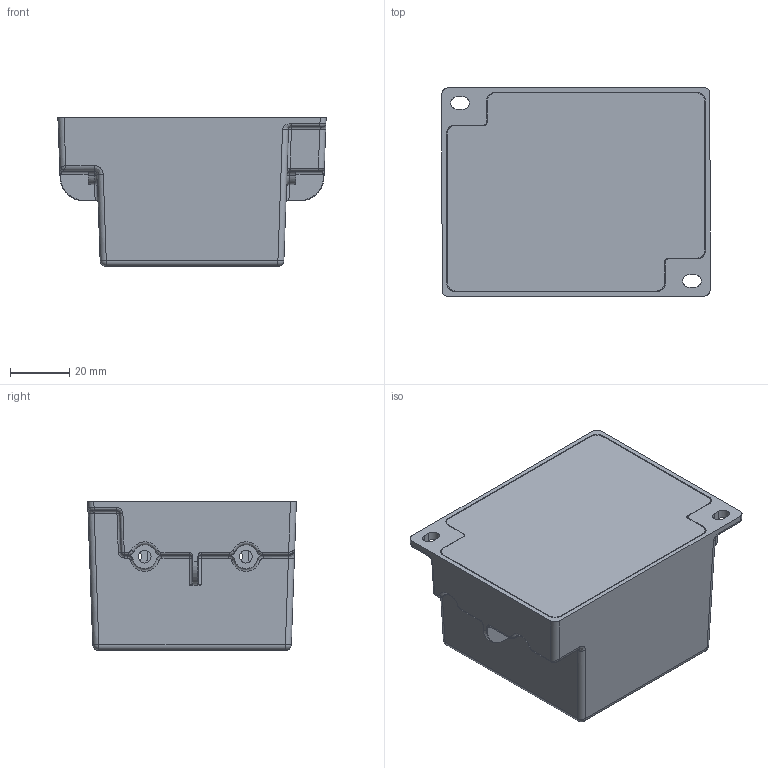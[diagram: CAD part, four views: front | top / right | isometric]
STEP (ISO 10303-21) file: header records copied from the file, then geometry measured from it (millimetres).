
FILE_DESCRIPTION((''),'2;1');
FILE_NAME('SPD-20_ASM','2020-06-05T10:29:29',('shalinice'),(''),'CREO PARAMETRIC BY PTC INC, 2016390','CREO PARAMETRIC BY PTC INC, 2016390','');
FILE_SCHEMA(('AUTOMOTIVE_DESIGN { 1 0 10303 214 1 1 1 1 }'));
Products named in the file (3): 3SPD-20A-D; 3SPD-20A-T; SPD-20_ASM
Assembly tree (2 placements, depth 2):
  SPD-20_ASM
    3SPD-20A-D
    3SPD-20A-T
Bounding box: 90.51 x 70.43 x 50.25 mm (x, y, z)
Volume: 62694 mm3; surface area: 52730.9 mm2
Topology: 2 solids, 2 shells, 785 faces, 2414 edges, 1632 vertices
Faces by surface type: plane 379, cylinder 271, bspline 75, torus 31, sphere 20, cone 9
Entity records: 64054 total; most frequent: CARTESIAN_POINT 26484, ORIENTED_EDGE 4788, DIRECTION 3740, PRESENTATION_STYLE_ASSIGNMENT 3181, STYLED_ITEM 2396, CURVE_STYLE 2394, EDGE_CURVE 2394, VERTEX_POINT 1632
